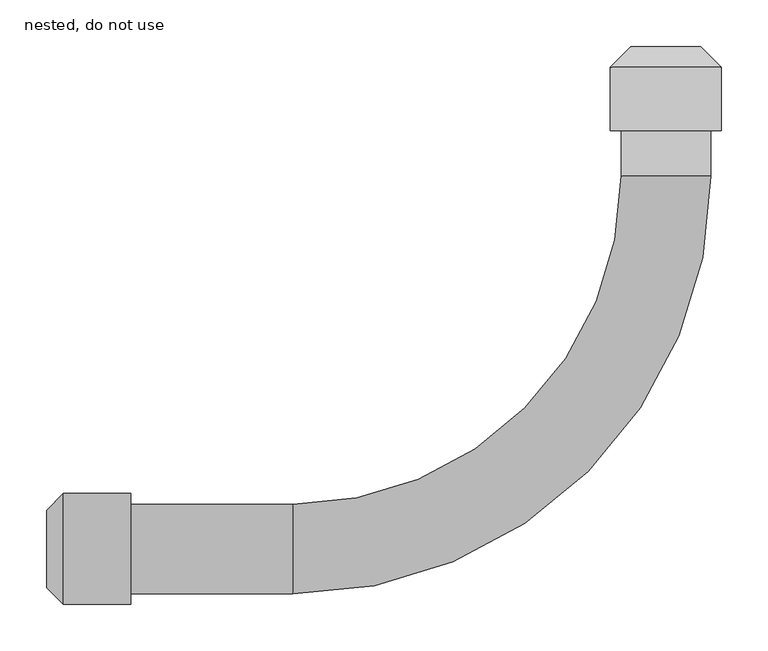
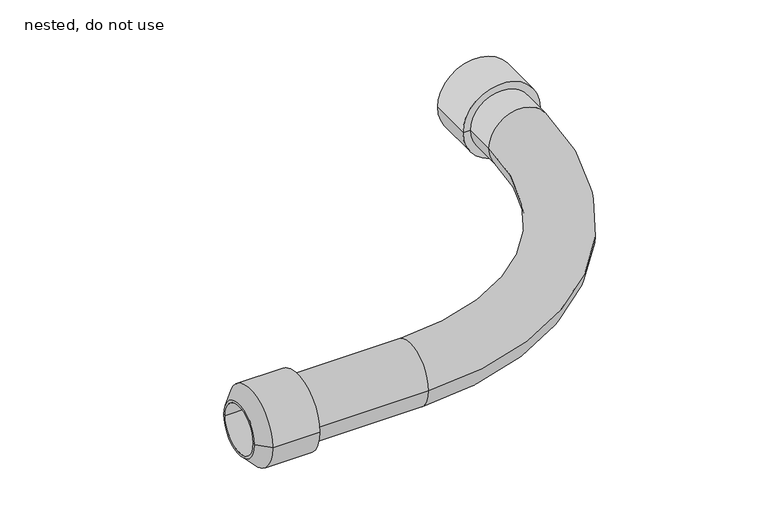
"""IFC4 building model written with IfcOpenShell, lengths in millimetres: pipe segment geometry, NLRS_52_PIF_UN_Vacurain Flex slang_SH_Dyka : nested, do not use."""

import ifcopenshell
import ifcopenshell.guid

model = None  # the IFC model being written
_history = None  # IfcOwnerHistory: only IFC2X3 demands one
_inside = {}  # id of a spatial element -> (the spatial element, [elements in it])
_under = {}  # id of a project, library or spatial element -> (it, [spatial elements below it])
_declared = {}  # id of a project -> (the project, [libraries it declares])
_typed = {}  # id of a type object -> (the type object, [elements of that type])
_made_of = {}  # id of a material, layer set ... -> (it, [elements and type objects made of it])


def new_model(schema):
    """Start an empty IFC model of exactly this schema.

    Asked for "IFC4X3", IfcOpenShell would pick the latest addendum, in which some entities
    have other attributes; the version numbers below select the first issue.
    IFC2X3 requires an IfcOwnerHistory on every rooted entity: one is made here for all.
    """
    global model, _history
    if schema == "IFC4X3":
        model = ifcopenshell.file(schema_version=(4, 3, 0, 0))
    else:
        model = ifcopenshell.file(schema=schema)
    _inside.clear()
    _under.clear()
    _declared.clear()
    _typed.clear()
    _made_of.clear()
    _history = None
    if model.schema == "IFC2X3":
        org = make("IfcOrganization", Name="unknown")
        user = make(
            "IfcPersonAndOrganization",
            ThePerson=make("IfcPerson", FamilyName="unknown"),
            TheOrganization=org,
        )
        app = make(
            "IfcApplication",
            ApplicationDeveloper=org,
            Version="unknown",
            ApplicationFullName="unknown",
            ApplicationIdentifier="unknown",
        )
        _history = make(
            "IfcOwnerHistory",
            OwningUser=user,
            OwningApplication=app,
            ChangeAction="ADDED",
            CreationDate=0,
        )
    return model


def make(cls, **values):
    """One entity of the class cls with the attributes given. An attribute that is None is left unset."""
    return model.create_entity(
        cls, **{name: value for name, value in values.items() if value is not None}
    )


def rooted(cls, **values):
    """An entity with a GlobalId (a new one), such as an element, a storey or a relation."""
    return make(cls, GlobalId=ifcopenshell.guid.new(), OwnerHistory=_history, **values)


def si_unit(unit_type, name, prefix=None):
    """IfcSIUnit, for example si_unit("LENGTHUNIT", "METRE", prefix="MILLI")."""
    return make("IfcSIUnit", UnitType=unit_type, Prefix=prefix, Name=name)


def assignment(units):
    """IfcUnitAssignment: the units of a project."""
    return None if units is None else make("IfcUnitAssignment", Units=units)


def point(xyz):
    """IfcCartesianPoint."""
    return None if xyz is None else make("IfcCartesianPoint", Coordinates=xyz)


def direction(xyz):
    """IfcDirection."""
    return None if xyz is None else make("IfcDirection", DirectionRatios=xyz)


def frame(location, z_axis=None, x_axis=None):
    """IfcAxis2Placement3D, a coordinate frame: its origin and axes. An axis left out is left unset."""
    return make(
        "IfcAxis2Placement3D",
        Location=point(location),
        Axis=direction(z_axis),
        RefDirection=direction(x_axis),
    )


def origin():
    """The frame at (0, 0, 0) with its axes left unset."""
    return frame((0.0, 0.0, 0.0))


def place(relative_to, where):
    """IfcLocalPlacement: puts the frame where relative to a parent placement (None: the world)."""
    return make(
        "IfcLocalPlacement", PlacementRelTo=relative_to, RelativePlacement=where
    )


def context(
    kind, dimensions, precision=None, world=None, true_north=None, identifier=None
):
    """IfcGeometricRepresentationContext, for example the 3D "Model" context."""
    return make(
        "IfcGeometricRepresentationContext",
        ContextIdentifier=identifier,
        ContextType=kind,
        CoordinateSpaceDimension=dimensions,
        Precision=precision,
        WorldCoordinateSystem=world,
        TrueNorth=true_north,
    )


def project(units=None, contexts=None):
    """IfcProject with its units and contexts."""
    return rooted(
        "IfcProject",
        Name="project",
        RepresentationContexts=contexts,
        UnitsInContext=assignment(units),
    )


def spatial(cls, under=None, at=None, **own):
    """A site, building, storey or space (cls), placed at a placement, below another one or the project."""
    s = rooted(cls, ObjectPlacement=at, **own)
    if under is not None:
        _under.setdefault(under.id(), (under, []))[1].append(s)
    return s


def polyline(points):
    """IfcPolyline through the points."""
    return make("IfcPolyline", Points=[point(p) for p in points])


def circle_curve(where, radius):
    """IfcCircle in the frame where."""
    return make("IfcCircle", Position=where, Radius=radius)


def ellipse_curve(where, semi_axis1, semi_axis2):
    """IfcEllipse in the frame where."""
    return make(
        "IfcEllipse", Position=where, SemiAxis1=semi_axis1, SemiAxis2=semi_axis2
    )


def trimmed(basis, trim1, trim2, sense, master):
    """IfcTrimmedCurve: the piece of a basis curve between two trims."""
    return make(
        "IfcTrimmedCurve",
        BasisCurve=basis,
        Trim1=trim1,
        Trim2=trim2,
        SenseAgreement=sense,
        MasterRepresentation=master,
    )


def shape(context_of_items, identifier, shape_type, items):
    """IfcShapeRepresentation: the items that make up one representation, for example the "Body"."""
    return make(
        "IfcShapeRepresentation",
        ContextOfItems=context_of_items,
        RepresentationIdentifier=identifier,
        RepresentationType=shape_type,
        Items=items,
    )


def source(mapping_origin, context_of_items, identifier, shape_type, items):
    """IfcRepresentationMap: a shape defined once, which mapped items show again and again."""
    return make(
        "IfcRepresentationMap",
        MappingOrigin=mapping_origin,
        MappedRepresentation=shape(context_of_items, identifier, shape_type, items),
    )


def transform(
    local_origin,
    x_axis=None,
    y_axis=None,
    z_axis=None,
    scale=None,
    scale2=None,
    scale3=None,
    uniform=True,
):
    """IfcCartesianTransformationOperator3D, or its non-uniform kind. x_axis, y_axis, z_axis: its Axis1, 2, 3."""
    if uniform:
        return make(
            "IfcCartesianTransformationOperator3D",
            Axis1=direction(x_axis),
            Axis2=direction(y_axis),
            LocalOrigin=point(local_origin),
            Scale=scale,
            Axis3=direction(z_axis),
        )
    return make(
        "IfcCartesianTransformationOperator3DnonUniform",
        Axis1=direction(x_axis),
        Axis2=direction(y_axis),
        LocalOrigin=point(local_origin),
        Scale=scale,
        Axis3=direction(z_axis),
        Scale2=scale2,
        Scale3=scale3,
    )


def mapped(mapping_source, mapping_target):
    """IfcMappedItem: shows the shape of a source again, moved by a transform."""
    return make(
        "IfcMappedItem", MappingSource=mapping_source, MappingTarget=mapping_target
    )


def made_of(thing, what):
    """Note that an element or type object is made of a material, layer set ...; save() writes the relation."""
    if what is not None:
        _made_of.setdefault(what.id(), (what, []))[1].append(thing)
    return thing


def element(
    cls,
    number,
    at=None,
    inside=None,
    cuts=None,
    type_object=None,
    material=None,
    context=None,
    identifier="Body",
    shape_type=None,
    held_by="IfcProductDefinitionShape",
    body=None,
    shapes=None,
    **own,
):
    """One element of the class cls, such as IfcWall. Its Tag is "e" and its number.

    at: its placement. inside: the storey or other place that contains it. cuts: it is an
    opening in that element (IfcRelVoidsElement). A single representation is given by context,
    identifier, shape_type and body (its items); several are given by shapes. held_by: the class
    of the entity that holds the representations. save() writes the other relations.
    """
    e = rooted(cls, Tag="e%d" % number, ObjectPlacement=at, **own)
    if body is not None:
        shapes = [shape(context, identifier, shape_type, body)]
    if shapes is not None:
        e.Representation = make(held_by, Representations=shapes)
    if inside is not None:
        _inside.setdefault(inside.id(), (inside, []))[1].append(e)
    if cuts is not None:
        rooted(
            "IfcRelVoidsElement", RelatingBuildingElement=cuts, RelatedOpeningElement=e
        )
    if type_object is not None:
        _typed.setdefault(type_object.id(), (type_object, []))[1].append(e)
    return made_of(e, material)


def aggregate(whole, parts):
    """IfcRelAggregates: a whole, such as a stair, and the parts it consists of."""
    return rooted("IfcRelAggregates", RelatingObject=whole, RelatedObjects=parts)


def save(model, path):
    """Write the relations noted so far, then the file.

    IfcRelAggregates (storeys below a building ...), IfcRelContainedInSpatialStructure (elements
    in a storey), IfcRelDefinesByType, IfcRelAssociatesMaterial and IfcRelDeclares: one each for
    every whole, place, type object, material and project.
    """
    for whole, parts in _under.values():
        aggregate(whole, parts)
    for where, things in _inside.values():
        rooted(
            "IfcRelContainedInSpatialStructure",
            RelatedElements=things,
            RelatingStructure=where,
        )
    for kind, things in _typed.values():
        rooted("IfcRelDefinesByType", RelatedObjects=things, RelatingType=kind)
    for what, things in _made_of.values():
        rooted("IfcRelAssociatesMaterial", RelatedObjects=things, RelatingMaterial=what)
    for by, libraries in _declared.values():
        rooted("IfcRelDeclares", RelatingContext=by, RelatedDefinitions=libraries)
    model.write(path)


def plane_surface(at):
    """IfcPlane: the flat surface through the origin of the frame at, square to its z axis."""
    return make("IfcPlane", Position=at)


def cylinder_surface(at, radius):
    """IfcCylindricalSurface: all points at the distance radius from the z axis of the frame at."""
    return make("IfcCylindricalSurface", Position=at, Radius=radius)


def revolved_surface(curve, axis_point, axis_direction):
    """IfcSurfaceOfRevolution: the curve turned about the line through axis_point along axis_direction."""
    return make(
        "IfcSurfaceOfRevolution",
        SweptCurve=make("IfcArbitraryOpenProfileDef", ProfileType="CURVE", Curve=curve),
        AxisPosition=make("IfcAxis1Placement", Location=point(axis_point), Axis=direction(axis_direction)),
    )


def advanced_brep(points, edges, surfaces, faces):
    """IfcAdvancedBrep: a solid bounded by faces that lie on surfaces and meet in shared edges.

    An edge is (start, end): straight between two places in points (the first is 0);
    or (start, end, curve); or (start, end, curve, False) where it runs against its curve.
    A face is (place in surfaces, loops), or (place, loops, False) where it looks against
    its surface's normal. A loop lists edges by number (the first is 1), with a minus sign
    where the edge is run from its end to its start. The first loop is the outer one.
    """
    corners = [point(p) for p in points]
    vertices = [make("IfcVertexPoint", VertexGeometry=c) for c in corners]
    made = []
    for start, end, *more in edges:
        made.append(
            make(
                "IfcEdgeCurve",
                EdgeStart=vertices[start],
                EdgeEnd=vertices[end],
                EdgeGeometry=more[0] if more else make("IfcPolyline", Points=[corners[start], corners[end]]),
                SameSense=more[1] if len(more) > 1 else True,
            )
        )
    hull = []
    for where, loops, *sense in faces:
        bounds = []
        for j, loop in enumerate(loops):
            ring = [make("IfcOrientedEdge", EdgeElement=made[abs(k) - 1], Orientation=k > 0) for k in loop]
            bounds.append(
                make(
                    "IfcFaceOuterBound" if j == 0 else "IfcFaceBound",
                    Bound=make("IfcEdgeLoop", EdgeList=ring),
                    Orientation=True,
                )
            )
        hull.append(make("IfcAdvancedFace", Bounds=bounds, FaceSurface=surfaces[where], SameSense=sense[0] if sense else True))
    return make("IfcAdvancedBrep", Outer=make("IfcClosedShell", CfsFaces=hull))


def nested_do_not_use_11bc6f6c(model_context):
    return source(origin(), model_context, "Body", "AdvancedBrep", [
        advanced_brep(
        [(-574.0, -548.0, 0.0), (-574.0, -452.0, 0.0), (-400.0, -548.0, 0.0), (-400.0, -452.0, 0.0), (-48.0, -100.0, 0.0), (48.0, -100.0, 0.0), (48.0, -51.0, 0.0), (-48.0, -51.0, 0.0)],
        [
            (0, 1, circle_curve(frame((-574.0, -500.0, 0.0), z_axis=(-1.0, 0.0, 0.0), x_axis=(0.0, 1.0, 0.0)), 48.0)),
            (1, 0, circle_curve(frame((-574.0, -500.0, 0.0), z_axis=(-1.0, 0.0, 0.0), x_axis=(0.0, 1.0, 0.0)), 48.0)),
            (0, 2),
            (2, 3, circle_curve(frame((-400.0, -500.0, 0.0), z_axis=(-1.0, 0.0, 0.0), x_axis=(0.0, 1.0, 0.0)), 48.0)),
            (3, 1),
            (3, 2, circle_curve(frame((-400.0, -500.0, 0.0), z_axis=(-1.0, 0.0, 0.0), x_axis=(0.0, 1.0, 0.0)), 48.0)),
            (4, 3, circle_curve(frame((-400.0, -100.0, 0.0), z_axis=(0.0, 0.0, -1.0), x_axis=(0.0, -1.0, 0.0)), 352.0)),
            (2, 5, circle_curve(frame((-400.0, -100.0, 0.0), z_axis=(0.0, 0.0, 1.0), x_axis=(0.0, -1.0, 0.0)), 448.0)),
            (5, 4, circle_curve(frame((0.0, -100.0, 0.0), z_axis=(0.0, -1.0, 0.0), x_axis=(-1.0, 0.0, 0.0)), 48.0)),
            (4, 5, circle_curve(frame((0.0, -100.0, 0.0), z_axis=(0.0, -1.0, 0.0), x_axis=(-1.0, 0.0, 0.0)), 48.0)),
            (6, 7, circle_curve(frame((0.0, -51.0, 0.0), z_axis=(0.0, 1.0, 0.0), x_axis=(-1.0, 0.0, 0.0)), 48.0)),
            (7, 6, circle_curve(frame((0.0, -51.0, 0.0), z_axis=(0.0, 1.0, 0.0), x_axis=(-1.0, 0.0, 0.0)), 48.0)),
            (5, 6),
            (7, 4),
        ],
        [
            plane_surface(frame((-574.0, -500.0, 0.0), z_axis=(-1.0, 0.0, 0.0), x_axis=(0.0, 0.0, 1.0))),
            cylinder_surface(frame((-574.0, -500.0, 0.0), z_axis=(-1.0, 0.0, 0.0), x_axis=(0.0, 1.0, 0.0)), 48.0),
            revolved_surface(trimmed(ellipse_curve(frame((-400.0, -500.0, 0.0), z_axis=(-1.0, 0.0, 0.0), x_axis=(0.0, 1.0, 0.0)), 48.0, 48.0), [point((-400.0, -548.0, 0.0))], [point((-400.0, -452.0, 0.0))], True, "CARTESIAN"), (-400.0, -100.0, 0.0), (0.0, 0.0, 1.0)),
            revolved_surface(trimmed(ellipse_curve(frame((-400.0, -500.0, 0.0), z_axis=(-1.0, 0.0, 0.0), x_axis=(0.0, 1.0, 0.0)), 48.0, 48.0), [point((-400.0, -452.0, 0.0))], [point((-400.0, -548.0, 0.0))], True, "CARTESIAN"), (-400.0, -100.0, 0.0), (0.0, 0.0, 1.0)),
            plane_surface(frame((0.0, -51.0, 0.0), z_axis=(0.0, 1.0, 0.0), x_axis=(0.0, 0.0, 1.0))),
            cylinder_surface(frame((0.0, -100.0, 0.0), z_axis=(0.0, -1.0, 0.0), x_axis=(-1.0, 0.0, 0.0)), 48.0),
        ],
        [
            (0, [[1, 2]]),
            (1, [[-1, 3, 4, 5]]),
            (1, [[-2, -5, 6, -3]]),
            (2, [[7, -4, 8, 9]]),
            (3, [[-8, -6, -7, 10]]),
            (4, [[11, 12]]),
            (5, [[-9, 13, -12, 14]]),
            (5, [[-10, -14, -11, -13]]),
        ],
    ),
        advanced_brep(
        [(-625.0, -537.5, 0.0), (-625.0, -462.5, 0.0), (-664.0, -462.5, 0.0), (-664.0, -537.5, 0.0), (-625.0, -500.0, 0.0), (-574.0, -559.5, 0.0), (-574.0, -440.5, 0.0), (-574.0, -500.0, 0.0), (-646.0, -559.5, 0.0), (-646.0, -440.5, 0.0), (-664.0, -541.5, 0.0), (-664.0, -458.5, 0.0)],
        [
            (0, 1, circle_curve(frame((-625.0, -500.0, 0.0), z_axis=(1.0, 0.0, 0.0), x_axis=(0.0, 1.0, 0.0)), 37.5)),
            (1, 2),
            (2, 3, circle_curve(frame((-664.0, -500.0, 0.0), z_axis=(-1.0, 0.0, 0.0), x_axis=(0.0, 1.0, 0.0)), 37.5)),
            (3, 0),
            (1, 0, circle_curve(frame((-625.0, -500.0, 0.0), z_axis=(1.0, 0.0, 0.0), x_axis=(0.0, 1.0, 0.0)), 37.5)),
            (3, 2, circle_curve(frame((-664.0, -500.0, 0.0), z_axis=(-1.0, 0.0, 0.0), x_axis=(0.0, 1.0, 0.0)), 37.5)),
            (4, 1),
            (0, 4),
            (5, 6, circle_curve(frame((-574.0, -500.0, 0.0), z_axis=(1.0, 0.0, 0.0), x_axis=(0.0, 1.0, 0.0)), 59.5)),
            (6, 7),
            (7, 5),
            (6, 5, circle_curve(frame((-574.0, -500.0, 0.0), z_axis=(1.0, 0.0, 0.0), x_axis=(0.0, 1.0, 0.0)), 59.5)),
            (8, 9, circle_curve(frame((-646.0, -500.0, 0.0), z_axis=(1.0, 0.0, 0.0), x_axis=(0.0, 1.0, 0.0)), 59.5)),
            (9, 6),
            (5, 8),
            (9, 8, circle_curve(frame((-646.0, -500.0, 0.0), z_axis=(1.0, 0.0, 0.0), x_axis=(0.0, 1.0, 0.0)), 59.5)),
            (10, 11, circle_curve(frame((-664.0, -500.0, 0.0), z_axis=(1.0, 0.0, 0.0), x_axis=(0.0, 1.0, 0.0)), 41.5)),
            (11, 9),
            (8, 10),
            (11, 10, circle_curve(frame((-664.0, -500.0, 0.0), z_axis=(1.0, 0.0, 0.0), x_axis=(0.0, 1.0, 0.0)), 41.5)),
            (2, 11),
            (10, 3),
        ],
        [
            revolved_surface(polyline([(-664.0, -462.5, 0.0), (-625.0, -462.5, 0.0)]), (-666.0, -500.0, 0.0), (-1.0, 0.0, 0.0)),
            plane_surface(frame((-625.0, -500.0, 0.0), z_axis=(-1.0, 0.0, 0.0), x_axis=(0.0, 1.0, 0.0))),
            plane_surface(frame((-574.0, -500.0, 0.0), z_axis=(1.0, 0.0, 0.0), x_axis=(0.0, 1.0, 0.0))),
            cylinder_surface(frame((-666.0, -500.0, 0.0), z_axis=(-1.0, 0.0, 0.0), x_axis=(0.0, 1.0, 0.0)), 59.5),
            revolved_surface(polyline([(-646.0, -440.5, 0.0), (-664.0, -458.5, 0.0)]), (-666.0, -500.0, 0.0), (-1.0, 0.0, 0.0)),
            plane_surface(frame((-664.0, -500.0, 0.0), z_axis=(-1.0, 0.0, 0.0), x_axis=(0.0, 1.0, 0.0))),
        ],
        [
            (0, [[1, 2, 3, 4]]),
            (0, [[5, -4, 6, -2]]),
            (1, [[7, -1, 8]]),
            (1, [[-8, -5, -7]]),
            (2, [[9, 10, 11]]),
            (2, [[12, -11, -10]]),
            (3, [[13, 14, -9, 15]]),
            (3, [[16, -15, -12, -14]]),
            (4, [[17, 18, -13, 19]]),
            (4, [[20, -19, -16, -18]]),
            (5, [[-3, 21, -17, 22]]),
            (5, [[-6, -22, -20, -21]]),
        ],
    ),
        advanced_brep(
        [(59.5, -51.0, 0.0), (-59.5, -51.0, 0.0), (-59.5, 17.0, 0.0), (59.5, 17.0, 0.0), (0.0, -51.0, 0.0), (37.5, 0.0, 0.0), (-37.5, 0.0, 0.0), (0.0, 0.0, 0.0), (37.5, 39.0, 0.0), (-37.5, 39.0, 0.0)],
        [
            (0, 1, circle_curve(frame((0.0, -51.0, 0.0), z_axis=(0.0, 1.0, 0.0), x_axis=(-1.0, 0.0, 0.0)), 59.5)),
            (1, 2),
            (2, 3, circle_curve(frame((0.0, 17.0, 0.0), z_axis=(0.0, -1.0, 0.0), x_axis=(-1.0, 0.0, 0.0)), 59.5)),
            (3, 0),
            (1, 0, circle_curve(frame((0.0, -51.0, 0.0), z_axis=(0.0, 1.0, 0.0), x_axis=(-1.0, 0.0, 0.0)), 59.5)),
            (3, 2, circle_curve(frame((0.0, 17.0, 0.0), z_axis=(0.0, -1.0, 0.0), x_axis=(-1.0, 0.0, 0.0)), 59.5)),
            (4, 1),
            (0, 4),
            (5, 6, circle_curve(frame((0.0, 0.0, 0.0), z_axis=(0.0, 1.0, 0.0), x_axis=(-1.0, 0.0, 0.0)), 37.5)),
            (6, 7),
            (7, 5),
            (6, 5, circle_curve(frame((0.0, 0.0, 0.0), z_axis=(0.0, 1.0, 0.0), x_axis=(-1.0, 0.0, 0.0)), 37.5)),
            (8, 9, circle_curve(frame((0.0, 39.0, 0.0), z_axis=(0.0, 1.0, 0.0), x_axis=(-1.0, 0.0, 0.0)), 37.5)),
            (9, 6),
            (5, 8),
            (9, 8, circle_curve(frame((0.0, 39.0, 0.0), z_axis=(0.0, 1.0, 0.0), x_axis=(-1.0, 0.0, 0.0)), 37.5)),
            (2, 9),
            (8, 3),
        ],
        [
            cylinder_surface(frame((0.0, 2019.0, 0.0), z_axis=(0.0, -1.0, 0.0), x_axis=(-1.0, 0.0, 0.0)), 59.5),
            plane_surface(frame((0.0, -51.0, 0.0), z_axis=(0.0, -1.0, 0.0), x_axis=(-1.0, 0.0, 0.0))),
            plane_surface(frame((0.0, 0.0, 0.0), z_axis=(0.0, 1.0, 0.0), x_axis=(-1.0, 0.0, 0.0))),
            revolved_surface(polyline([(-37.5, 0.0, 0.0), (-37.5, 39.0, 0.0)]), (0.0, 2019.0, 0.0), (0.0, -1.0, 0.0)),
            revolved_surface(polyline([(-37.5, 39.0, 0.0), (-59.5, 17.0, 0.0)]), (0.0, 2019.0, 0.0), (0.0, -1.0, 0.0)),
        ],
        [
            (0, [[1, 2, 3, 4]]),
            (0, [[5, -4, 6, -2]]),
            (1, [[7, -1, 8]]),
            (1, [[-8, -5, -7]]),
            (2, [[9, 10, 11]]),
            (2, [[12, -11, -10]]),
            (3, [[13, 14, -9, 15]]),
            (3, [[16, -15, -12, -14]]),
            (4, [[-3, 17, -13, 18]]),
            (4, [[-6, -18, -16, -17]]),
        ],
    ),
    ])


if __name__ == "__main__":
    model = new_model("IFC4")
    model_context = context("Model", 3, world=origin())
    ifc_project = project(units=[si_unit("LENGTHUNIT", "METRE", prefix="MILLI")], contexts=[model_context])
    site = spatial("IfcSite", under=ifc_project)
    building = spatial("IfcBuilding", under=site)
    placement = place(None, origin())
    nested_do_not_use_shape = nested_do_not_use_11bc6f6c(model_context)
    element("IfcPipeSegment", 1, ObjectType="NLRS_52_PIF_UN_Vacurain Flex slang_SH_Dyka : nested, do not use", at=placement, inside=building, context=model_context, shape_type="MappedRepresentation", body=[
        mapped(nested_do_not_use_shape, transform((0.0, 0.0, 0.0), x_axis=(1.0, 0.0, 0.0), y_axis=(0.0, 1.0, 0.0), z_axis=(0.0, 0.0, 1.0))),
    ])
    save(model, "model.ifc")
